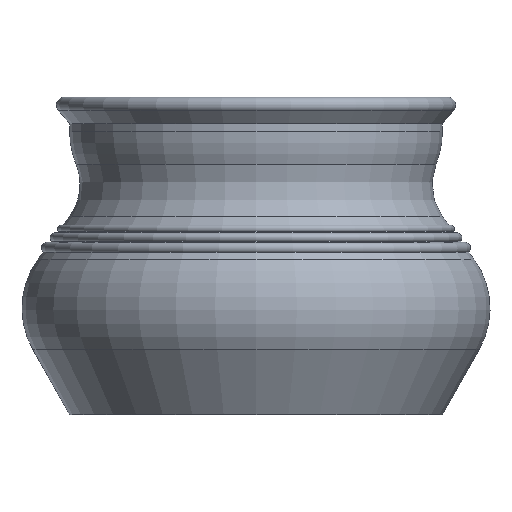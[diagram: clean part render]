
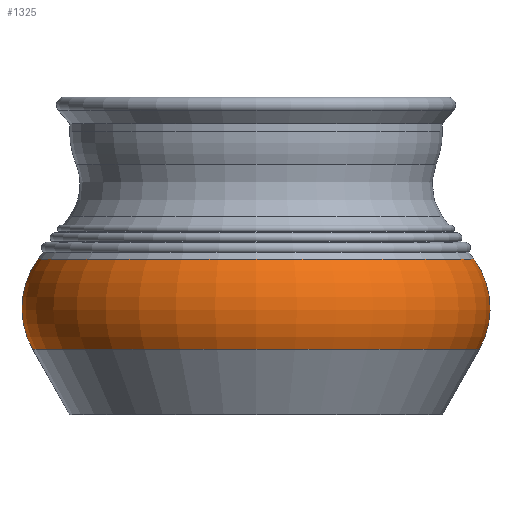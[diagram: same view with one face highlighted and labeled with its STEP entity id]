
A CAD part, front view. The second image highlights one B-rep face of the part: STEP entity #1325.
In plain terms, the highlighted toroidal (fillet/blend) face has major radius 95.001 mm and minor radius 52.359 mm.
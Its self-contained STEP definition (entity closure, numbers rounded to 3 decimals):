
#22=TOROIDAL_SURFACE('',#1505,95.001,52.359);
#166=FACE_OUTER_BOUND('',#284,.T.);
#284=EDGE_LOOP('',(#1208,#1209,#1210,#1211));
#526=CIRCLE('',#1467,140.623);
#549=CIRCLE('',#1506,137.196);
#550=CIRCLE('',#1507,52.359);
#653=VERTEX_POINT('',#2240);
#669=VERTEX_POINT('',#2303);
#818=EDGE_CURVE('',#653,#653,#526,.T.);
#849=EDGE_CURVE('',#669,#669,#549,.T.);
#850=EDGE_CURVE('',#669,#653,#550,.T.);
#1208=ORIENTED_EDGE('',*,*,#849,.F.);
#1209=ORIENTED_EDGE('',*,*,#850,.T.);
#1210=ORIENTED_EDGE('',*,*,#818,.T.);
#1211=ORIENTED_EDGE('',*,*,#850,.F.);
#1325=ADVANCED_FACE('',(#166),#22,.T.);
#1467=AXIS2_PLACEMENT_3D('',#2241,#1837,#1838);
#1505=AXIS2_PLACEMENT_3D('',#2302,#1921,#1922);
#1506=AXIS2_PLACEMENT_3D('',#2304,#1923,#1924);
#1507=AXIS2_PLACEMENT_3D('',#2305,#1925,#1926);
#1837=DIRECTION('center_axis',(0.,0.,1.));
#1838=DIRECTION('ref_axis',(1.,0.,0.));
#1921=DIRECTION('center_axis',(0.,0.,1.));
#1922=DIRECTION('ref_axis',(1.,0.,0.));
#1923=DIRECTION('center_axis',(0.,0.,1.));
#1924=DIRECTION('ref_axis',(1.,0.,0.));
#1925=DIRECTION('center_axis',(0.,-1.,0.));
#1926=DIRECTION('ref_axis',(-1.,0.,0.));
#2240=CARTESIAN_POINT('',(-140.623,0.,41.308));
#2241=CARTESIAN_POINT('Origin',(0.,0.,41.308));
#2302=CARTESIAN_POINT('Origin',(0.,0.,67.));
#2303=CARTESIAN_POINT('',(-137.196,0.,98.));
#2304=CARTESIAN_POINT('Origin',(0.,0.,98.));
#2305=CARTESIAN_POINT('Origin',(-95.001,0.,
67.));
